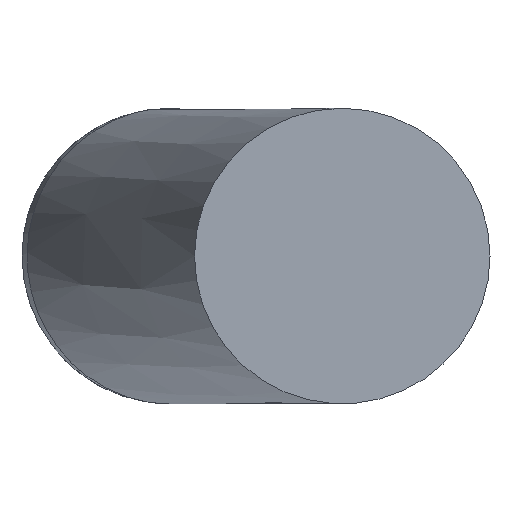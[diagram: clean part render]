
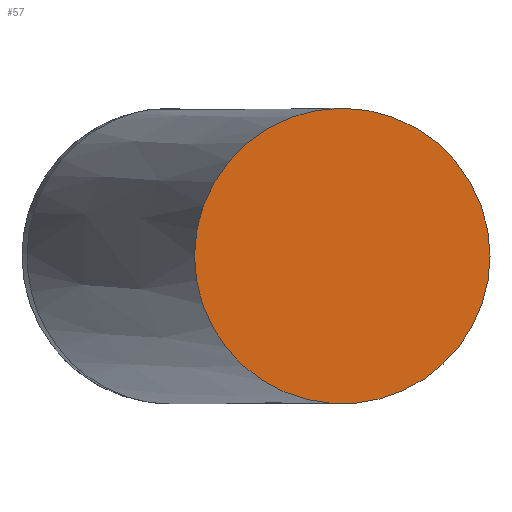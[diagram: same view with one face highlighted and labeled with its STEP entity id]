
A CAD part, front view. The second image highlights one B-rep face of the part: STEP entity #57.
In plain terms, the highlighted planar face has unit normal (0, -1, 0).
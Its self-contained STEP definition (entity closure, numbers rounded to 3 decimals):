
#57=ADVANCED_FACE('0:25323',(#73),#74,.T.);
#73=FACE_OUTER_BOUND('',#1578,.T.);
#74=PLANE('',#1579);
#1578=EDGE_LOOP('',(#1612,#1613));
#1579=AXIS2_PLACEMENT_3D('',#1614,#1615,#1616);
#1612=ORIENTED_EDGE('',*,*,#1628,.T.);
#1613=ORIENTED_EDGE('',*,*,#1629,.T.);
#1614=CARTESIAN_POINT('',(14.31,-15.0,0.));
#1615=DIRECTION('',(0.0,-1.0,-0.0));
#1616=DIRECTION('',(-0.0,0.0,-1.0));
#1628=EDGE_CURVE('0:25401',#1646,#1647,#1648,.T.);
#1629=EDGE_CURVE('0:25401',#1647,#1646,#1649,.T.);
#1646=VERTEX_POINT('',#1932);
#1647=VERTEX_POINT('',#1933);
#1648=CIRCLE('',#1934,4.0);
#1649=CIRCLE('',#1935,4.0);
#1932=CARTESIAN_POINT('',(8.67,-15.0,0.));
#1933=CARTESIAN_POINT('',(0.67,-15.0,0.));
#1934=AXIS2_PLACEMENT_3D('',#1944,#1945,#1946);
#1935=AXIS2_PLACEMENT_3D('',#1947,#1948,#1949);
#1944=CARTESIAN_POINT('',(4.67,-15.0,0.));
#1945=DIRECTION('',(0.,-1.0,0.));
#1946=DIRECTION('',(0.091,0.,-0.996));
#1947=CARTESIAN_POINT('',(4.67,-15.0,0.));
#1948=DIRECTION('',(0.,-1.0,0.));
#1949=DIRECTION('',(0.091,0.,-0.996));
